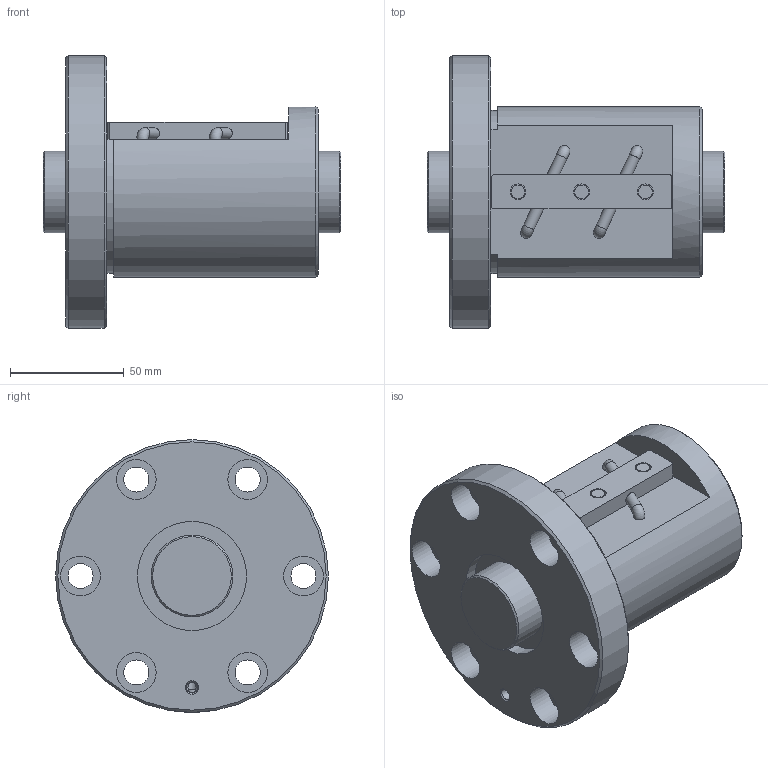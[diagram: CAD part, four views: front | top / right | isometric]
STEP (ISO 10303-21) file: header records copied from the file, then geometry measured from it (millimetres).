
FILE_DESCRIPTION(/* description */ ('STEP AP203'),/* implementation_level */ '2;1');
FILE_NAME(/* name */ 'BNF3610V-5RRG1+131LC0_000_rev',/* time_stamp */ '2024-08-06T08:39:07+02:00',/* author */ ('License CC BY-ND 4.0'),/* organization */ ('CADENAS'),/* preprocessor_version */ 'ST-DEVELOPER v19.3',/* originating_system */ 'PARTsolutions',/* authorisation */ ' ');
FILE_SCHEMA (('CONFIG_CONTROL_DESIGN'));
Length unit declared in the file: millimetre
Products named in the file (3): BNF3610V-5RRG1+131LC0_000_rev; BNF 3610-5RR000 Shaft; BNF 3610-5RR Nut
Assembly tree (2 placements, depth 2):
  BNF3610V-5RRG1+131LC0_000_rev
    BNF 3610-5RR000 Shaft
    BNF 3610-5RR Nut
Bounding box: 131 x 120 x 120 mm (x, y, z)
Volume: 567351.2 mm3; surface area: 86419.6 mm2
Topology: 2 solids, 2 shells, 77 faces, 168 edges, 110 vertices
Faces by surface type: cylinder 37, plane 29, cone 7, torus 4
Full cylindrical faces by diameter (mm): 4.5 x2, 4.917 x1, 4.998 x4, 6 x3, 7 x3, 11 x6, 17.5 x6, 36 x2, 48 x2, 75 x1, 120 x1
Entity records: 1943 total; most frequent: DIRECTION 348, CARTESIAN_POINT 324, ORIENTED_EDGE 220, AXIS2_PLACEMENT_3D 162, EDGE_LOOP 160, FACE_BOUND 160, EDGE_CURVE 110, VERTEX_POINT 96
